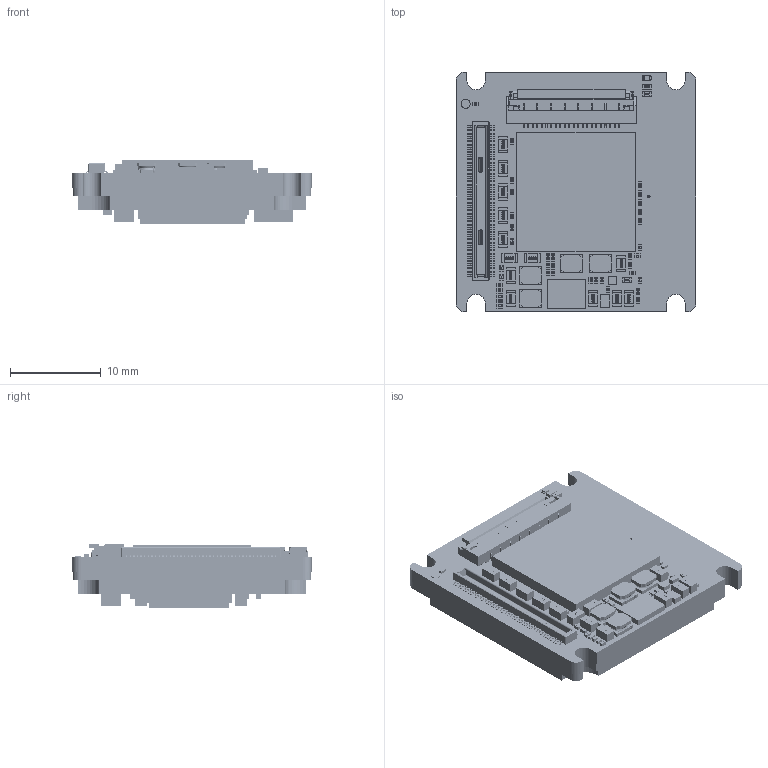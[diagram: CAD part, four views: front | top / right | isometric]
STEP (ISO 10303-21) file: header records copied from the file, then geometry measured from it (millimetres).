
FILE_DESCRIPTION (( 'STEP AP214' ), '1' );
FILE_NAME ('Alvium-CSI2-Bare-Board-IMX900.STEP', '2024-03-22T10:00:33', ( '' ), ( '' ), 'SwSTEP 2.0', 'SolidWorks 2021', '' );
FILE_SCHEMA (( 'AUTOMOTIVE_DESIGN' ));
Length unit declared in the file: millimetre
Products named in the file (1): Alvium-CSI2-Bare-Board-IMX900
Bounding box: 26.4 x 26.4 x 7 mm (x, y, z)
Volume: 3140.5 mm3; surface area: 3793 mm2
Topology: 153 solids, 153 shells, 10477 faces, 26599 edges, 17344 vertices
Faces by surface type: plane 5636, bspline 4025, cylinder 784, torus 28, cone 4
Entity records: 659820 total; most frequent: CARTESIAN_POINT 317274, ORIENTED_EDGE 53198, DIRECTION 32991, EDGE_CURVE 26599, VERTEX_POINT 17344, LINE 16877, VECTOR 16877, EDGE_LOOP 11411
